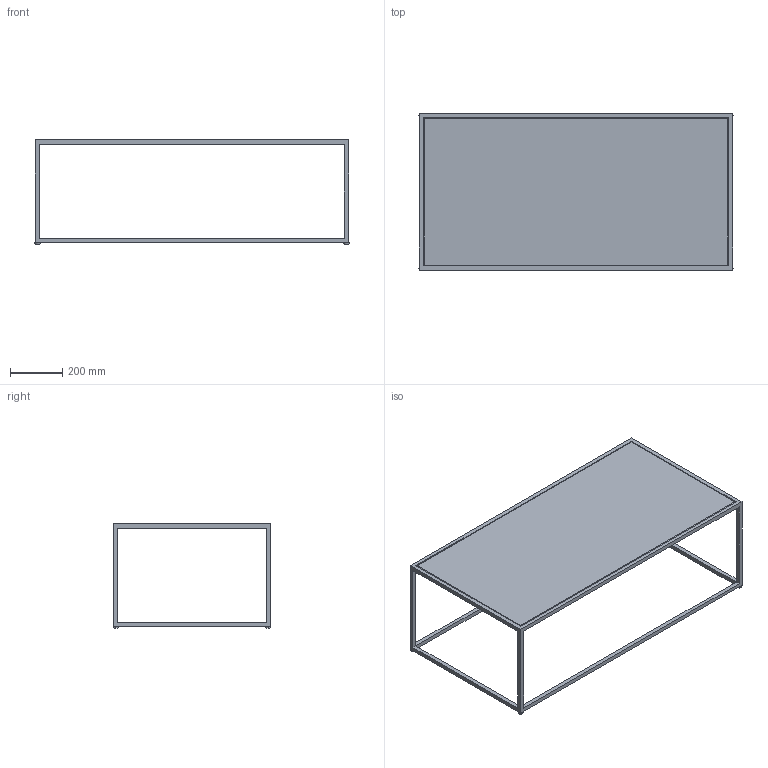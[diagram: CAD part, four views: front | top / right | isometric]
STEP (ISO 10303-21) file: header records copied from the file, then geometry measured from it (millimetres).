
FILE_DESCRIPTION(/* description */ (''),/* implementation_level */ '2;1');
FILE_NAME(/* name */ 'KINOSH~3',/* time_stamp */ '2019-07-24T10:25:15+09:00',/* author */ (''),/* organization */ (''),/* preprocessor_version */ 'ST-DEVELOPER v15',/* originating_system */ '',/* authorisation */ '');
FILE_SCHEMA (('AUTOMOTIVE_DESIGN'));
Length unit declared in the file: millimetre
Products named in the file (1): Document
Bounding box: 1204 x 604 x 400 mm (x, y, z)
Volume: 7546814.1 mm3; surface area: 1948318.9 mm2
Topology: 10 solids, 10 shells, 107 faces, 237 edges, 122 vertices
Faces by surface type: plane 68, bspline 39
Entity records: 3190 total; most frequent: CARTESIAN_POINT 1648, ORIENTED_EDGE 426, EDGE_CURVE 213, B_SPLINE_CURVE_WITH_KNOTS 181, VERTEX_POINT 122, EDGE_LOOP 113, ADVANCED_FACE 107, FACE_OUTER_BOUND 107
